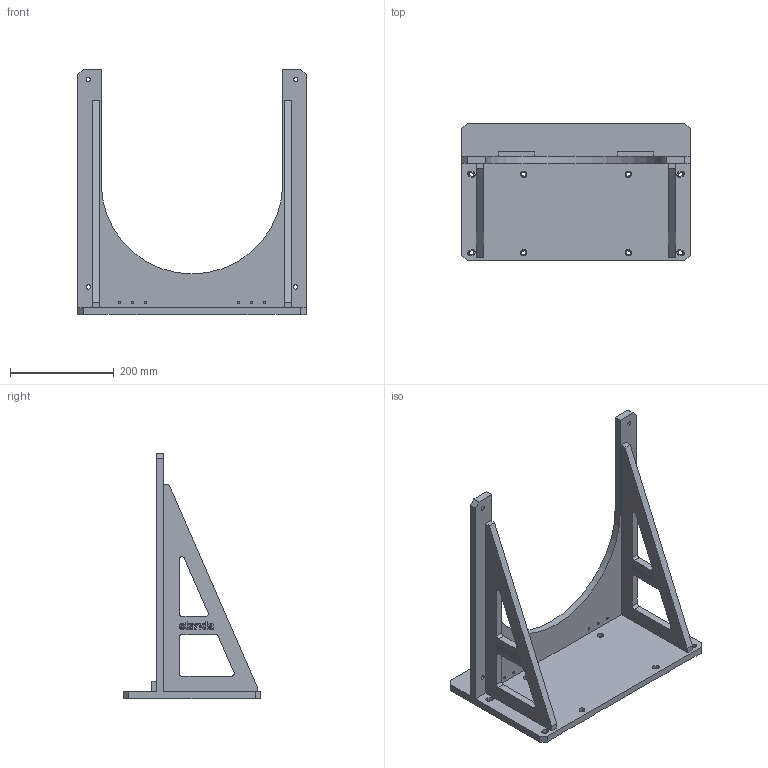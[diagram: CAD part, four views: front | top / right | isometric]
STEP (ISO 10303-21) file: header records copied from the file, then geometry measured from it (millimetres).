
FILE_DESCRIPTION((''),'2;1');
FILE_NAME('2AB450-350 SB.stp','2017-03-24T06:24:19',(''),(''),'Mechanical Desktop 2011','Mechanical Desktop 2011',', , ');
FILE_SCHEMA(('CONFIG_CONTROL_DESIGN'));
Length unit declared in the file: millimetre
Products named in the file (1): Product
Bounding box: 440 x 263 x 474 mm (x, y, z)
Volume: 3408964.2 mm3; surface area: 583823.6 mm2
Topology: 1 solids, 61 shells, 1629 faces, 4254 edges, 2776 vertices
Faces by surface type: bspline 679, plane 593, cylinder 159, cone 132, torus 66
Entity records: 58291 total; most frequent: CARTESIAN_POINT 21519, ORIENTED_EDGE 8268, DIRECTION 6572, EDGE_CURVE 4134, VERTEX_POINT 2776, AXIS2_PLACEMENT_3D 2303, VECTOR 1966, LINE 1966
